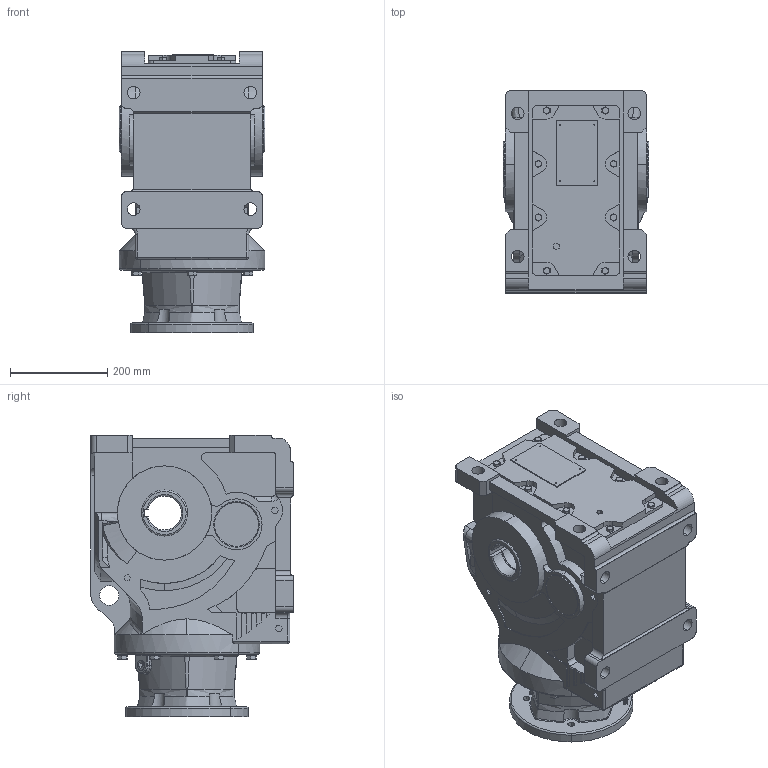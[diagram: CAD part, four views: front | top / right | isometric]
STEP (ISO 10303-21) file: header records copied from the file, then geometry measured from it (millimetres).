
FILE_DESCRIPTION (( 'STEP AP203' ), '1' );
FILE_NAME ('KHN97-254-6TC.STEP', '2022-04-08T05:29:19', ( 'user1' ), ( '' ), 'SwSTEP 2.0', 'SolidWorks 2012', '' );
FILE_SCHEMA (( 'CONFIG_CONTROL_DESIGN' ));
Length unit declared in the file: millimetre
Products named in the file (1): KHN97-254-6TC
Bounding box: 300 x 417 x 579.5 mm (x, y, z)
Volume: 42740935.5 mm3; surface area: 1220517.2 mm2
Topology: 1 solids, 1 shells, 1071 faces, 2860 edges, 1851 vertices
Faces by surface type: plane 545, cylinder 278, cone 107, bspline 106, torus 33, sphere 2
Entity records: 42164 total; most frequent: CARTESIAN_POINT 15982, ORIENTED_EDGE 5688, DIRECTION 5054, EDGE_CURVE 2844, VERTEX_POINT 1851, AXIS2_PLACEMENT_3D 1715, LINE 1624, VECTOR 1624
